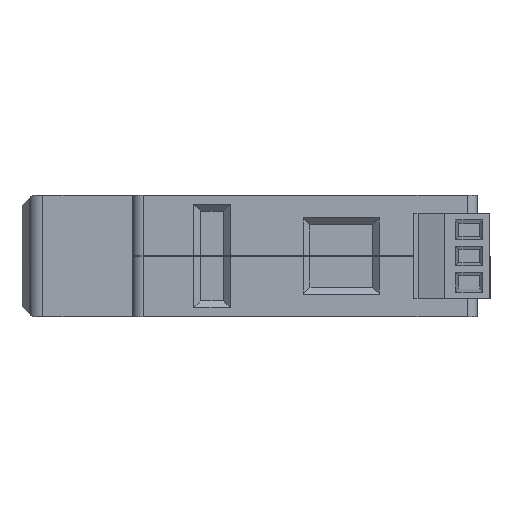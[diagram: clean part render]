
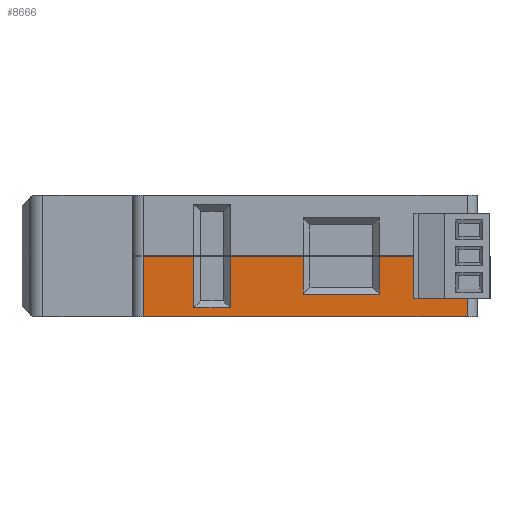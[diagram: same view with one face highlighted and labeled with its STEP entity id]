
A CAD part, left-side view. The second image highlights one B-rep face of the part: STEP entity #8666.
In plain terms, the highlighted planar face has unit normal (-1, 0, 0).
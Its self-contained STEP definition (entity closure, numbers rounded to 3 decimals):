
#634=FACE_OUTER_BOUND('',#1118,.T.);
#1118=EDGE_LOOP('',(#6259,#6260,#6261,#6262,#6263,#6264,#6265,#6266,#6267,
#6268,#6269,#6270,#6271,#6272));
#1792=LINE('',#12957,#2786);
#1798=LINE('',#12969,#2792);
#1804=LINE('',#12981,#2798);
#1843=LINE('',#13084,#2837);
#1845=LINE('',#13091,#2839);
#1864=LINE('',#13128,#2858);
#1867=LINE('',#13135,#2861);
#1886=LINE('',#13172,#2880);
#1889=LINE('',#13179,#2883);
#1890=LINE('',#13181,#2884);
#1891=LINE('',#13183,#2885);
#1892=LINE('',#13184,#2886);
#1893=LINE('',#13185,#2887);
#1894=LINE('',#13186,#2888);
#2786=VECTOR('',#10355,10.);
#2792=VECTOR('',#10361,10.);
#2798=VECTOR('',#10367,10.);
#2837=VECTOR('',#10450,10.);
#2839=VECTOR('',#10458,10.);
#2858=VECTOR('',#10493,10.);
#2861=VECTOR('',#10500,10.);
#2880=VECTOR('',#10535,10.);
#2883=VECTOR('',#10542,10.);
#2884=VECTOR('',#10543,10.);
#2885=VECTOR('',#10544,10.);
#2886=VECTOR('',#10545,10.);
#2887=VECTOR('',#10546,10.);
#2888=VECTOR('',#10547,10.);
#3742=VERTEX_POINT('',#12954);
#3743=VERTEX_POINT('',#12956);
#3748=VERTEX_POINT('',#12966);
#3749=VERTEX_POINT('',#12968);
#3754=VERTEX_POINT('',#12978);
#3755=VERTEX_POINT('',#12980);
#3797=VERTEX_POINT('',#13082);
#3799=VERTEX_POINT('',#13090);
#3809=VERTEX_POINT('',#13126);
#3811=VERTEX_POINT('',#13134);
#3821=VERTEX_POINT('',#13170);
#3823=VERTEX_POINT('',#13178);
#3824=VERTEX_POINT('',#13180);
#3825=VERTEX_POINT('',#13182);
#4641=EDGE_CURVE('',#3743,#3742,#1792,.T.);
#4647=EDGE_CURVE('',#3749,#3748,#1798,.T.);
#4653=EDGE_CURVE('',#3755,#3754,#1804,.T.);
#4705=EDGE_CURVE('',#3797,#3742,#1843,.T.);
#4708=EDGE_CURVE('',#3743,#3799,#1845,.T.);
#4727=EDGE_CURVE('',#3809,#3748,#1864,.T.);
#4730=EDGE_CURVE('',#3749,#3811,#1867,.T.);
#4749=EDGE_CURVE('',#3821,#3754,#1886,.T.);
#4752=EDGE_CURVE('',#3797,#3823,#1889,.T.);
#4753=EDGE_CURVE('',#3824,#3823,#1890,.T.);
#4754=EDGE_CURVE('',#3824,#3825,#1891,.T.);
#4755=EDGE_CURVE('',#3825,#3755,#1892,.T.);
#4756=EDGE_CURVE('',#3811,#3821,#1893,.T.);
#4757=EDGE_CURVE('',#3799,#3809,#1894,.T.);
#6259=ORIENTED_EDGE('',*,*,#4641,.T.);
#6260=ORIENTED_EDGE('',*,*,#4705,.F.);
#6261=ORIENTED_EDGE('',*,*,#4752,.T.);
#6262=ORIENTED_EDGE('',*,*,#4753,.F.);
#6263=ORIENTED_EDGE('',*,*,#4754,.T.);
#6264=ORIENTED_EDGE('',*,*,#4755,.T.);
#6265=ORIENTED_EDGE('',*,*,#4653,.T.);
#6266=ORIENTED_EDGE('',*,*,#4749,.F.);
#6267=ORIENTED_EDGE('',*,*,#4756,.F.);
#6268=ORIENTED_EDGE('',*,*,#4730,.F.);
#6269=ORIENTED_EDGE('',*,*,#4647,.T.);
#6270=ORIENTED_EDGE('',*,*,#4727,.F.);
#6271=ORIENTED_EDGE('',*,*,#4757,.F.);
#6272=ORIENTED_EDGE('',*,*,#4708,.F.);
#8283=PLANE('',#9336);
#8666=ADVANCED_FACE('',(#634),#8283,.T.);
#9336=AXIS2_PLACEMENT_3D('',#13177,#10540,#10541);
#10355=DIRECTION('',(0.,1.,0.));
#10361=DIRECTION('',(0.,1.,0.));
#10367=DIRECTION('',(0.,1.,0.));
#10450=DIRECTION('',(0.,0.,1.));
#10458=DIRECTION('',(0.,0.,-1.));
#10493=DIRECTION('',(0.,0.,1.));
#10500=DIRECTION('',(0.,0.,-1.));
#10535=DIRECTION('',(0.,0.,1.));
#10540=DIRECTION('center_axis',(-1.,0.,0.));
#10541=DIRECTION('ref_axis',(0.,-1.,0.));
#10542=DIRECTION('',(0.,-1.,0.));
#10543=DIRECTION('',(0.,0.,-1.));
#10544=DIRECTION('',(0.,1.,0.));
#10545=DIRECTION('',(0.,0.,1.));
#10546=DIRECTION('',(0.,-1.,0.));
#10547=DIRECTION('',(0.,-1.,0.));
#12954=CARTESIAN_POINT('',(-45.,12.5,8.7));
#12956=CARTESIAN_POINT('',(-45.,5.2,8.7));
#12957=CARTESIAN_POINT('',(-45.,4.197,8.7));
#12966=CARTESIAN_POINT('',(-45.,-0.1,8.7));
#12968=CARTESIAN_POINT('',(-45.,-10.6,8.7));
#12969=CARTESIAN_POINT('',(-45.,4.197,8.7));
#12978=CARTESIAN_POINT('',(-45.,-21.6,8.7));
#12980=CARTESIAN_POINT('',(-45.,-27.3,8.7));
#12981=CARTESIAN_POINT('',(-45.,4.197,8.7));
#13082=CARTESIAN_POINT('',(-45.,12.5,0.));
#13084=CARTESIAN_POINT('',(-45.,12.5,0.));
#13090=CARTESIAN_POINT('',(-45.,5.2,1.25));
#13091=CARTESIAN_POINT('',(-45.,5.2,1.125));
#13126=CARTESIAN_POINT('',(-45.,-0.1,1.25));
#13128=CARTESIAN_POINT('',(-45.,-0.1,7.625));
#13134=CARTESIAN_POINT('',(-45.,-10.6,3.25));
#13135=CARTESIAN_POINT('',(-45.,-10.6,2.125));
#13170=CARTESIAN_POINT('',(-45.,-21.6,3.25));
#13172=CARTESIAN_POINT('',(-45.,-21.6,6.625));
#13177=CARTESIAN_POINT('Origin',(-45.,14.,0.));
#13178=CARTESIAN_POINT('',(-45.,-34.3,0.));
#13179=CARTESIAN_POINT('',(-45.,14.,0.));
#13180=CARTESIAN_POINT('',(-45.,-34.3,2.64));
#13181=CARTESIAN_POINT('',(-45.,-34.3,0.));
#13182=CARTESIAN_POINT('',(-45.,-27.3,2.64));
#13183=CARTESIAN_POINT('',(-45.,-10.15,2.64));
#13184=CARTESIAN_POINT('',(-45.,-27.3,1.32));
#13185=CARTESIAN_POINT('',(-45.,-3.3,3.25));
#13186=CARTESIAN_POINT('',(-45.,7.45,1.25));
